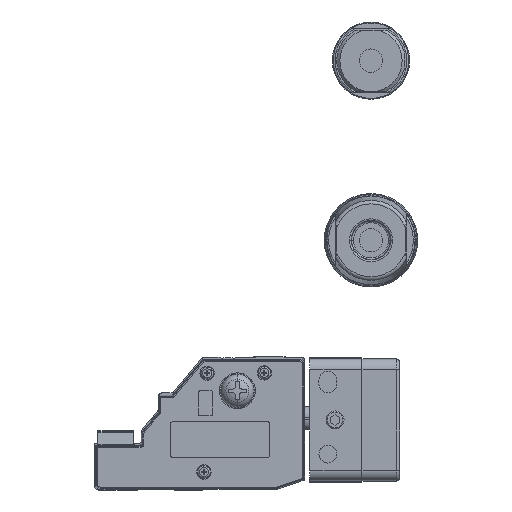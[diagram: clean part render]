
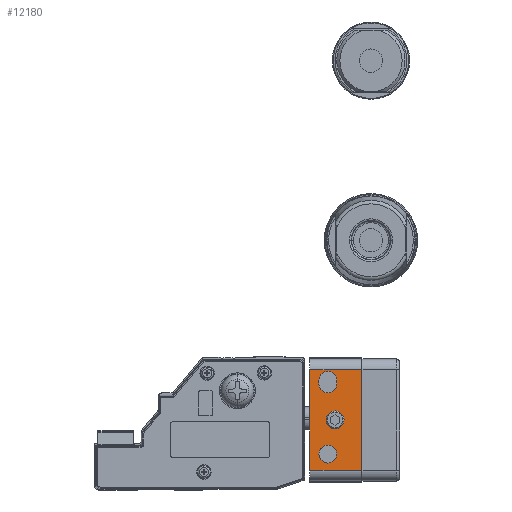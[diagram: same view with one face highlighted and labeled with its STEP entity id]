
A CAD part, left-side view. The second image highlights one B-rep face of the part: STEP entity #12180.
In plain terms, the highlighted planar face has unit normal (-1, 0, 0) as drawn and (0, 0, -1) by its records, which use the part's own axes.
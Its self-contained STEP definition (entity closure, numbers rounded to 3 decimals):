
#11130=CARTESIAN_POINT('',(-201.714,217.373,
0.));
#11140=DIRECTION('',(-0.,-0.,-1.));
#11150=DIRECTION('',(0.,-1.,0.));
#11160=AXIS2_PLACEMENT_3D('',#11130,#11140,#11150);
#11170=PLANE('',#11160);
#11180=CARTESIAN_POINT('',(-191.714,212.373,
0.));
#11190=DIRECTION('',(0.,0.,-1.));
#11200=DIRECTION('',(-1.,0.,0.));
#11210=AXIS2_PLACEMENT_3D('',#11180,#11190,#11200);
#11220=CIRCLE('',#11210,2.5);
#11230=CARTESIAN_POINT('',(-191.714,209.873,
0.));
#11240=VERTEX_POINT('',#11230);
#11250=CARTESIAN_POINT('',(-191.714,214.873,
0.));
#11260=VERTEX_POINT('',#11250);
#11270=EDGE_CURVE('',#11240,#11260,#11220,.T.);
#11280=ORIENTED_EDGE('',*,*,#11270,.F.);
#11290=CARTESIAN_POINT('',(0.,214.873,0.));
#11300=DIRECTION('',(-1.,0.,0.));
#11310=VECTOR('',#11300,1.);
#11320=LINE('',#11290,#11310);
#11330=CARTESIAN_POINT('',(-190.714,214.873,
0.));
#11340=VERTEX_POINT('',#11330);
#11350=EDGE_CURVE('',#11340,#11260,#11320,.T.);
#11360=ORIENTED_EDGE('',*,*,#11350,.T.);
#11370=CARTESIAN_POINT('',(-190.714,212.373,
0.));
#11380=DIRECTION('',(0.,0.,-1.));
#11390=DIRECTION('',(-1.,0.,0.));
#11400=AXIS2_PLACEMENT_3D('',#11370,#11380,#11390);
#11410=CIRCLE('',#11400,2.5);
#11420=CARTESIAN_POINT('',(-190.714,209.873,
0.));
#11430=VERTEX_POINT('',#11420);
#11440=EDGE_CURVE('',#11340,#11430,#11410,.T.);
#11450=ORIENTED_EDGE('',*,*,#11440,.F.);
#11460=CARTESIAN_POINT('',(0.,209.873,0.));
#11470=DIRECTION('',(1.,0.,0.));
#11480=VECTOR('',#11470,1.);
#11490=LINE('',#11460,#11480);
#11500=EDGE_CURVE('',#11240,#11430,#11490,.T.);
#11510=ORIENTED_EDGE('',*,*,#11500,.T.);
#11520=EDGE_LOOP('',(#11510,#11450,#11360,#11280));
#11530=FACE_BOUND('',#11520,.T.);
#11540=CARTESIAN_POINT('',(-171.214,212.373,
0.));
#11550=DIRECTION('',(0.,0.,-1.));
#11560=DIRECTION('',(-1.,0.,0.));
#11570=AXIS2_PLACEMENT_3D('',#11540,#11550,#11560);
#11580=CIRCLE('',#11570,2.5);
#11590=CARTESIAN_POINT('',(-173.714,212.373,
0.));
#11600=VERTEX_POINT('',#11590);
#11610=CARTESIAN_POINT('',(-168.714,212.373,
0.));
#11620=VERTEX_POINT('',#11610);
#11630=EDGE_CURVE('',#11600,#11620,#11580,.T.);
#11640=ORIENTED_EDGE('',*,*,#11630,.F.);
#11650=EDGE_CURVE('',#11620,#11600,#11580,.T.);
#11660=ORIENTED_EDGE('',*,*,#11650,.F.);
#11670=EDGE_LOOP('',(#11660,#11640));
#11680=FACE_BOUND('',#11670,.T.);
#11690=CARTESIAN_POINT('',(-180.714,210.373,
0.));
#11700=DIRECTION('',(0.,0.,-1.));
#11710=DIRECTION('',(-1.,0.,0.));
#11720=AXIS2_PLACEMENT_3D('',#11690,#11700,#11710);
#11730=CIRCLE('',#11720,2.5);
#11740=CARTESIAN_POINT('',(-183.214,210.373,
0.));
#11750=VERTEX_POINT('',#11740);
#11760=CARTESIAN_POINT('',(-178.214,210.373,
0.));
#11770=VERTEX_POINT('',#11760);
#11780=EDGE_CURVE('',#11750,#11770,#11730,.T.);
#11790=ORIENTED_EDGE('',*,*,#11780,.F.);
#11800=EDGE_CURVE('',#11770,#11750,#11730,.T.);
#11810=ORIENTED_EDGE('',*,*,#11800,.F.);
#11820=EDGE_LOOP('',(#11810,#11790));
#11830=FACE_BOUND('',#11820,.T.);
#11840=CARTESIAN_POINT('',(-166.714,-2.,0.));
#11850=DIRECTION('',(0.,1.,0.));
#11860=VECTOR('',#11850,1.);
#11870=LINE('',#11840,#11860);
#11880=CARTESIAN_POINT('',(-166.714,203.073,
0.));
#11890=VERTEX_POINT('',#11880);
#11900=CARTESIAN_POINT('',(-166.714,217.373,
0.));
#11910=VERTEX_POINT('',#11900);
#11920=EDGE_CURVE('',#11890,#11910,#11870,.T.);
#11930=ORIENTED_EDGE('',*,*,#11920,.F.);
#11940=CARTESIAN_POINT('',(0.,217.373,0.));
#11950=DIRECTION('',(-1.,0.,0.));
#11960=VECTOR('',#11950,1.);
#11970=LINE('',#11940,#11960);
#11980=CARTESIAN_POINT('',(-194.714,217.373,
0.));
#11990=VERTEX_POINT('',#11980);
#12000=EDGE_CURVE('',#11910,#11990,#11970,.T.);
#12010=ORIENTED_EDGE('',*,*,#12000,.F.);
#12020=CARTESIAN_POINT('',(-194.714,-2.,0.));
#12030=DIRECTION('',(0.,-1.,0.));
#12040=VECTOR('',#12030,1.);
#12050=LINE('',#12020,#12040);
#12060=CARTESIAN_POINT('',(-194.714,203.073,
0.));
#12070=VERTEX_POINT('',#12060);
#12080=EDGE_CURVE('',#11990,#12070,#12050,.T.);
#12090=ORIENTED_EDGE('',*,*,#12080,.F.);
#12100=CARTESIAN_POINT('',(0.,203.073,0.));
#12110=DIRECTION('',(-1.,0.,0.));
#12120=VECTOR('',#12110,1.);
#12130=LINE('',#12100,#12120);
#12140=EDGE_CURVE('',#11890,#12070,#12130,.T.);
#12150=ORIENTED_EDGE('',*,*,#12140,.T.);
#12160=EDGE_LOOP('',(#12150,#12090,#12010,#11930));
#12170=FACE_OUTER_BOUND('',#12160,.T.);
#12180=ADVANCED_FACE('',(#11530,#11680,#11830,#12170),#11170,.T.);
